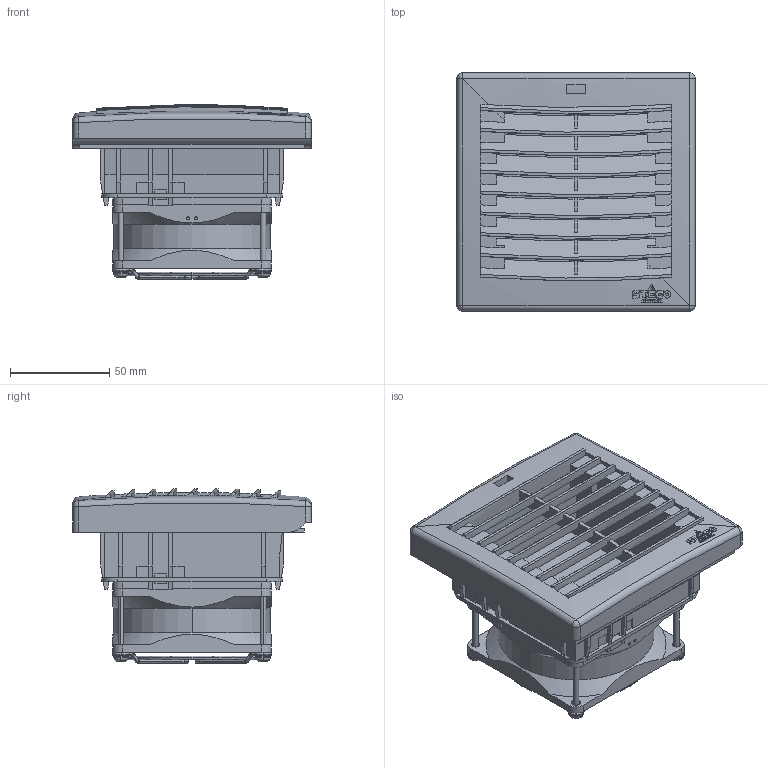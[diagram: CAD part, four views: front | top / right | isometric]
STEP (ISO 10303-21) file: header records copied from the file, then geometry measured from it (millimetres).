
FILE_DESCRIPTION (( 'STEP AP214' ), '1' );
FILE_NAME ('FPO_018_DC_92x92_EPLAN_10_2015.STEP', '2015-10-16T10:49:13', ( 'Admin' ), ( 'Hewlett-Packard Company' ), 'SwSTEP 2.0', 'SolidWorks 2015', '' );
FILE_SCHEMA (( 'AUTOMOTIVE_DESIGN' ));
Length unit declared in the file: millimetre
Products named in the file (1): FPO_018_DC_92x92_EPLAN_10_2015
Bounding box: 120 x 120 x 87.94 mm (x, y, z)
Surface area: 120286 mm2 (no closed solid volume)
Topology: 0 solids, 23 shells, 764 faces, 2699 edges, 1869 vertices
Faces by surface type: plane 354, cylinder 206, torus 94, sphere 60, bspline 38, cone 12
Entity records: 41293 total; most frequent: CARTESIAN_POINT 10243, ORIENTED_EDGE 4637, DIRECTION 4619, EDGE_CURVE 2694, VERTEX_POINT 1869, AXIS2_PLACEMENT_3D 1683, LINE 1253, VECTOR 1253
